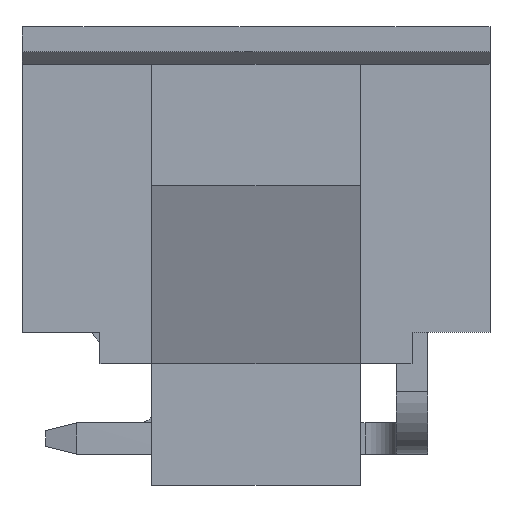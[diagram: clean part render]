
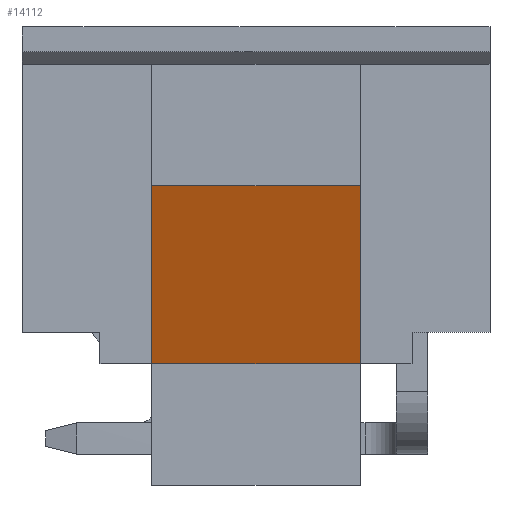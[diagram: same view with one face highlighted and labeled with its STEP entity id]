
A CAD part, front view. The second image highlights one B-rep face of the part: STEP entity #14112.
In plain terms, the highlighted planar face has unit normal (0, -0.938, -0.346).
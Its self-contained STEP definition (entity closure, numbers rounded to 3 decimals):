
#3275 = PLANE('',#3276);
#3276 = AXIS2_PLACEMENT_3D('',#3277,#3278,#3279);
#3277 = CARTESIAN_POINT('',(4.16,8.3,-1.));
#3278 = DIRECTION('',(-1.,-0.,-0.));
#3279 = DIRECTION('',(0.,0.,-1.));
#3616 = PLANE('',#3617);
#3617 = AXIS2_PLACEMENT_3D('',#3618,#3619,#3620);
#3618 = CARTESIAN_POINT('',(10.84,8.3,-4.9));
#3619 = DIRECTION('',(1.,0.,-0.));
#3620 = DIRECTION('',(0.,0.,1.));
#3644 = PLANE('',#3645);
#3645 = AXIS2_PLACEMENT_3D('',#3646,#3647,#3648);
#3646 = CARTESIAN_POINT('',(2.5,-6.5,-4.9));
#3647 = DIRECTION('',(0.,-1.,0.));
#3648 = DIRECTION('',(0.,0.,1.));
#5024 = VERTEX_POINT('',#5025);
#5025 = CARTESIAN_POINT('',(10.84,-8.6,4.7));
#5039 = PLANE('',#5040);
#5040 = AXIS2_PLACEMENT_3D('',#5041,#5042,#5043);
#5041 = CARTESIAN_POINT('',(0.,-8.6,8.6));
#5042 = DIRECTION('',(0.,-1.,0.));
#5043 = DIRECTION('',(0.,0.,-1.));
#5051 = EDGE_CURVE('',#5024,#5052,#5054,.T.);
#5052 = VERTEX_POINT('',#5053);
#5053 = CARTESIAN_POINT('',(10.84,-6.5,-1.));
#5054 = SURFACE_CURVE('',#5055,(#5059,#5066),.PCURVE_S1.);
#5055 = LINE('',#5056,#5057);
#5056 = CARTESIAN_POINT('',(10.84,-8.6,4.7));
#5057 = VECTOR('',#5058,1.);
#5058 = DIRECTION('',(0.,0.346,-0.938));
#5059 = PCURVE('',#3616,#5060);
#5060 = DEFINITIONAL_REPRESENTATION('',(#5061),#5065);
#5061 = LINE('',#5062,#5063);
#5062 = CARTESIAN_POINT('',(9.6,16.9));
#5063 = VECTOR('',#5064,1.);
#5064 = DIRECTION('',(-0.938,-0.346));
#5065 = ( GEOMETRIC_REPRESENTATION_CONTEXT(2) 
PARAMETRIC_REPRESENTATION_CONTEXT() REPRESENTATION_CONTEXT('2D SPACE',''
  ) );
#5066 = PCURVE('',#5067,#5072);
#5067 = PLANE('',#5068);
#5068 = AXIS2_PLACEMENT_3D('',#5069,#5070,#5071);
#5069 = CARTESIAN_POINT('',(2.5,-6.5,-1.));
#5070 = DIRECTION('',(-0.,-0.938,-0.346));
#5071 = DIRECTION('',(0.,-0.346,0.938));
#5072 = DEFINITIONAL_REPRESENTATION('',(#5073),#5077);
#5073 = LINE('',#5074,#5075);
#5074 = CARTESIAN_POINT('',(6.075,-8.34));
#5075 = VECTOR('',#5076,1.);
#5076 = DIRECTION('',(-1.,0.));
#5077 = ( GEOMETRIC_REPRESENTATION_CONTEXT(2) 
PARAMETRIC_REPRESENTATION_CONTEXT() REPRESENTATION_CONTEXT('2D SPACE',''
  ) );
#14070 = VERTEX_POINT('',#14071);
#14071 = CARTESIAN_POINT('',(4.16,-8.6,4.7));
#14092 = EDGE_CURVE('',#14070,#5024,#14093,.T.);
#14093 = SURFACE_CURVE('',#14094,(#14098,#14105),.PCURVE_S1.);
#14094 = LINE('',#14095,#14096);
#14095 = CARTESIAN_POINT('',(4.16,-8.6,4.7));
#14096 = VECTOR('',#14097,1.);
#14097 = DIRECTION('',(1.,0.,0.));
#14098 = PCURVE('',#5039,#14099);
#14099 = DEFINITIONAL_REPRESENTATION('',(#14100),#14104);
#14100 = LINE('',#14101,#14102);
#14101 = CARTESIAN_POINT('',(3.9,4.16));
#14102 = VECTOR('',#14103,1.);
#14103 = DIRECTION('',(0.,1.));
#14104 = ( GEOMETRIC_REPRESENTATION_CONTEXT(2) 
PARAMETRIC_REPRESENTATION_CONTEXT() REPRESENTATION_CONTEXT('2D SPACE',''
  ) );
#14105 = PCURVE('',#5067,#14106);
#14106 = DEFINITIONAL_REPRESENTATION('',(#14107),#14111);
#14107 = LINE('',#14108,#14109);
#14108 = CARTESIAN_POINT('',(6.075,-1.66));
#14109 = VECTOR('',#14110,1.);
#14110 = DIRECTION('',(0.,-1.));
#14111 = ( GEOMETRIC_REPRESENTATION_CONTEXT(2) 
PARAMETRIC_REPRESENTATION_CONTEXT() REPRESENTATION_CONTEXT('2D SPACE',''
  ) );
#14112 = ADVANCED_FACE('',(#14113),#5067,.T.);
#14113 = FACE_BOUND('',#14114,.T.);
#14114 = EDGE_LOOP('',(#14115,#14138,#14139,#14140));
#14115 = ORIENTED_EDGE('',*,*,#14116,.T.);
#14116 = EDGE_CURVE('',#14117,#5052,#14119,.T.);
#14117 = VERTEX_POINT('',#14118);
#14118 = CARTESIAN_POINT('',(4.16,-6.5,-1.));
#14119 = SURFACE_CURVE('',#14120,(#14124,#14131),.PCURVE_S1.);
#14120 = LINE('',#14121,#14122);
#14121 = CARTESIAN_POINT('',(4.16,-6.5,-1.));
#14122 = VECTOR('',#14123,1.);
#14123 = DIRECTION('',(1.,0.,0.));
#14124 = PCURVE('',#5067,#14125);
#14125 = DEFINITIONAL_REPRESENTATION('',(#14126),#14130);
#14126 = LINE('',#14127,#14128);
#14127 = CARTESIAN_POINT('',(0.,-1.66));
#14128 = VECTOR('',#14129,1.);
#14129 = DIRECTION('',(0.,-1.));
#14130 = ( GEOMETRIC_REPRESENTATION_CONTEXT(2) 
PARAMETRIC_REPRESENTATION_CONTEXT() REPRESENTATION_CONTEXT('2D SPACE',''
  ) );
#14131 = PCURVE('',#3644,#14132);
#14132 = DEFINITIONAL_REPRESENTATION('',(#14133),#14137);
#14133 = LINE('',#14134,#14135);
#14134 = CARTESIAN_POINT('',(3.9,-1.66));
#14135 = VECTOR('',#14136,1.);
#14136 = DIRECTION('',(0.,-1.));
#14137 = ( GEOMETRIC_REPRESENTATION_CONTEXT(2) 
PARAMETRIC_REPRESENTATION_CONTEXT() REPRESENTATION_CONTEXT('2D SPACE',''
  ) );
#14138 = ORIENTED_EDGE('',*,*,#5051,.F.);
#14139 = ORIENTED_EDGE('',*,*,#14092,.F.);
#14140 = ORIENTED_EDGE('',*,*,#14141,.F.);
#14141 = EDGE_CURVE('',#14117,#14070,#14142,.T.);
#14142 = SURFACE_CURVE('',#14143,(#14147,#14154),.PCURVE_S1.);
#14143 = LINE('',#14144,#14145);
#14144 = CARTESIAN_POINT('',(4.16,-6.5,-1.));
#14145 = VECTOR('',#14146,1.);
#14146 = DIRECTION('',(0.,-0.346,0.938));
#14147 = PCURVE('',#5067,#14148);
#14148 = DEFINITIONAL_REPRESENTATION('',(#14149),#14153);
#14149 = LINE('',#14150,#14151);
#14150 = CARTESIAN_POINT('',(0.,-1.66));
#14151 = VECTOR('',#14152,1.);
#14152 = DIRECTION('',(1.,0.));
#14153 = ( GEOMETRIC_REPRESENTATION_CONTEXT(2) 
PARAMETRIC_REPRESENTATION_CONTEXT() REPRESENTATION_CONTEXT('2D SPACE',''
  ) );
#14154 = PCURVE('',#3275,#14155);
#14155 = DEFINITIONAL_REPRESENTATION('',(#14156),#14160);
#14156 = LINE('',#14157,#14158);
#14157 = CARTESIAN_POINT('',(0.,14.8));
#14158 = VECTOR('',#14159,1.);
#14159 = DIRECTION('',(-0.938,0.346));
#14160 = ( GEOMETRIC_REPRESENTATION_CONTEXT(2) 
PARAMETRIC_REPRESENTATION_CONTEXT() REPRESENTATION_CONTEXT('2D SPACE',''
  ) );
